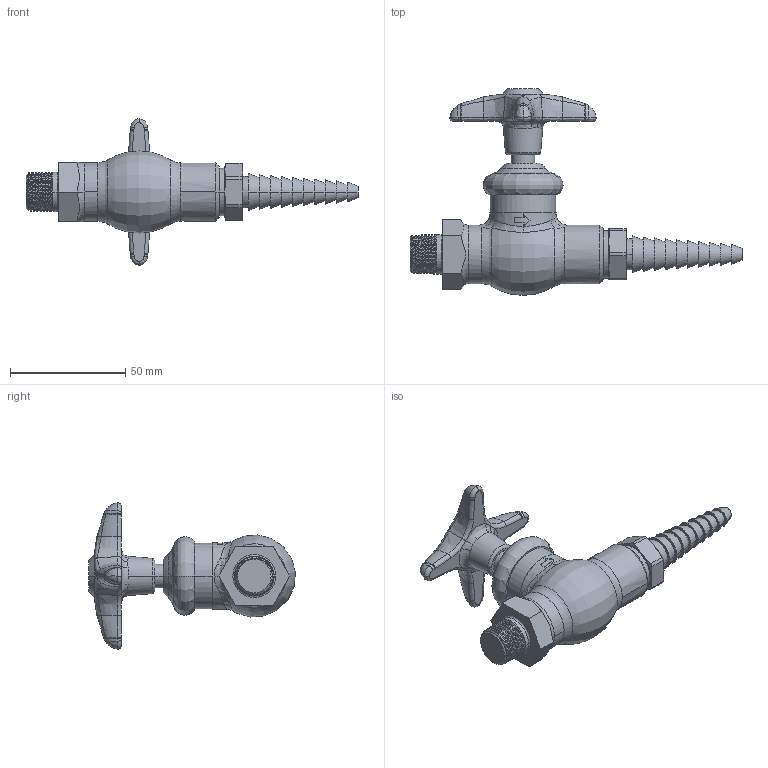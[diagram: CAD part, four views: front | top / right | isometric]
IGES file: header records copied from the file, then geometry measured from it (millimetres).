
Start section:  PTC IGES file: LWV1-A11.igs
Global section: file name: LWV1-A11.igs; native system: Creo Parametric by PTC Inc.; preprocessor: 2014500; author: usch_engrender; organization: Unknown; date: 20150901.203652; units: inch
Bounding box: 143.97 x 89.67 x 63.42 mm (x, y, z)
Volume: 87304.5 mm3; surface area: 20248 mm2
Topology: 1 solids, 4 shells, 390 faces, 950 edges, 583 vertices
Faces by surface type: bspline 240, revolution 150
